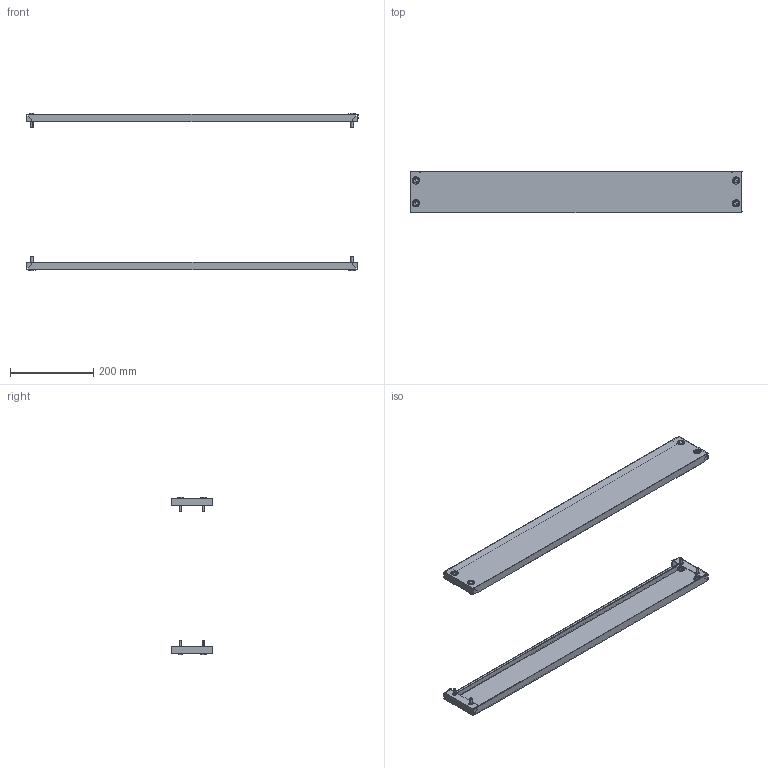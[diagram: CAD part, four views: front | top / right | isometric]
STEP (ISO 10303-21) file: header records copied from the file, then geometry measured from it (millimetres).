
FILE_DESCRIPTION (( 'STEP AP203' ), '1' );
FILE_NAME ('R5FZ8-400.STEP', '2025-06-18T08:39:07', ( '' ), ( '' ), 'SwSTEP 2.0', 'SolidWorks 2022', '' );
FILE_SCHEMA (( 'CONFIG_CONTROL_DESIGN' ));
Length unit declared in the file: millimetre
Products named in the file (5): R5FZ8-400; M6x16 DIN 912 HX cl.4,8 Zinc_stright; 6 DIN 6798 A Zinc; RB.1055.00.00.0 simple_-03 (800); Plug_11.5-13Д18ЧК_-00
Assembly tree (26 placements, depth 2):
  R5FZ8-400
    RB.1055.00.00.0 simple_-03 (800)  x2
    M6x16 DIN 912 HX cl.4,8 Zinc_stright  x8
    6 DIN 6798 A Zinc  x8
    Plug_11.5-13Д18ЧК_-00  x8
Bounding box: 799 x 100.05 x 378.5 mm (x, y, z)
Volume: 384268.8 mm3; surface area: 520303.7 mm2
Topology: 26 solids, 26 shells, 1196 faces, 3456 edges, 2112 vertices
Faces by surface type: plane 700, bspline 208, cylinder 128, cone 96, torus 48, sphere 16
Entity records: 9921 total; most frequent: CARTESIAN_POINT 2626, ORIENTED_EDGE 1352, DIRECTION 1188, EDGE_CURVE 676, LINE 448, VECTOR 448, VERTEX_POINT 444, AXIS2_PLACEMENT_3D 370
